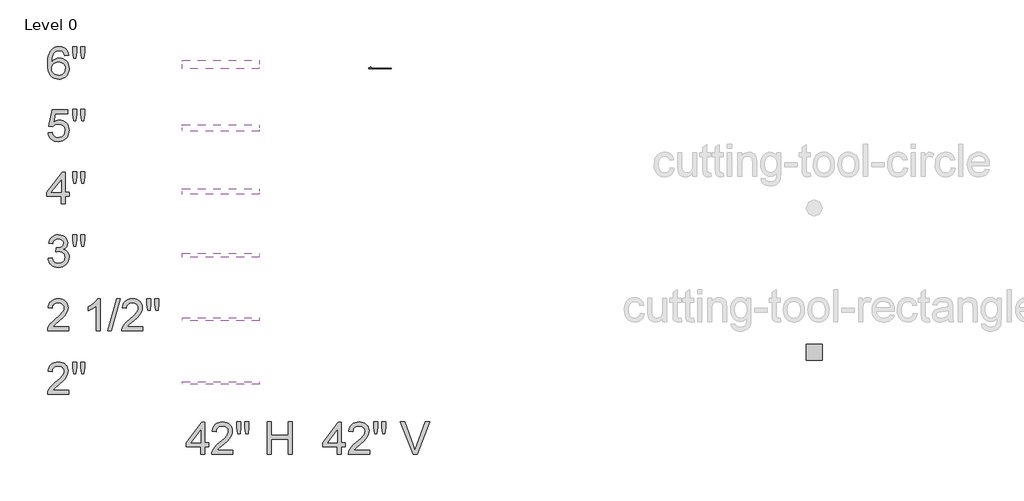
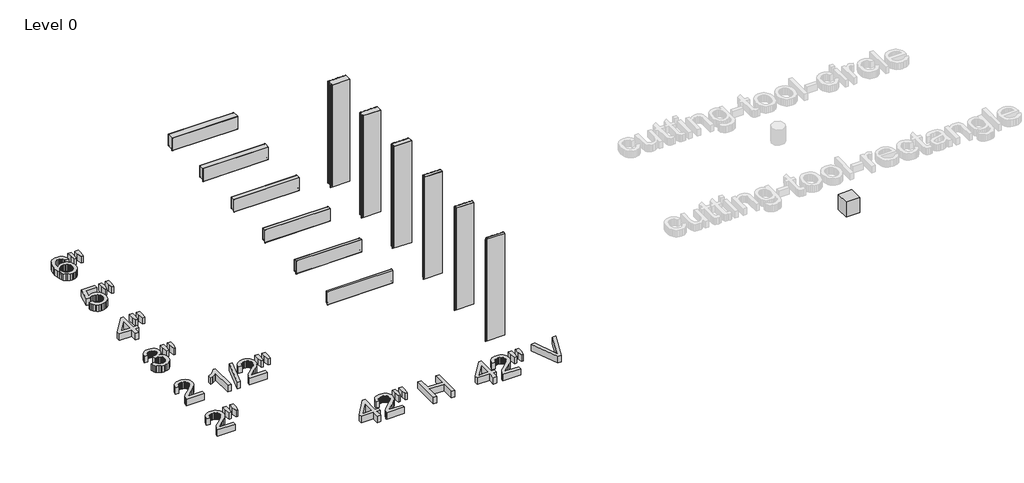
# One storey, part 1 of 3: 12 plates, 9 proxies.
"""IFC4 building model written with IfcOpenShell, lengths in millimetres."""

from ifc_helpers import new_model, si_unit, origin, origin_with_axes, place, context, project, spatial, polyline, outline, extrude, transform, mapped, element, save
from components import kingspan_ks_cutting_tool_rectangle_cutting_tool_rectangle_f435e5aa, plate_f772c91a, plate_86c60f66, plate_f3079791, plate_fa2d5985, plate_81779ee4, plate_a466234f, plate_e7e5032e, plate_ba7cd849, plate_3ed67b4f, plate_2c1e21dd, plate_d46dd3be, plate_fd4a2de5

model = new_model("IFC4")

# Units and contexts
model_context = context("Model", 3, world=origin())
ifc_project = project(units=[si_unit("LENGTHUNIT", "METRE", prefix="MILLI")], contexts=[model_context])

# Site, building, storey
site = spatial("IfcSite", under=ifc_project)
building = spatial("IfcBuilding", under=site)
storey = spatial("IfcBuildingStorey", under=building, Name="Level 0", Elevation=0.0)

# Proxies
placement = place(None, origin())
element("IfcBuildingElementProxy", 1, Name="24\" Arial", ObjectType="24\" Arial", at=placement, inside=storey, context=model_context, shape_type="SweptSolid", body=[
    extrude(outline(polyline([(-8830.6863907, 6438.6033745), (-8830.6863907, 6581.3691999), (-9106.7003197, 6581.3691999), (-9106.7003197, 6657.5109734), (-8811.6509473, 7038.219841), (-8754.5446171, 7038.219841), (-8754.5446171, 6657.5109734), (-8678.4028436, 6657.5109734), (-8678.4028436, 6581.3691999), (-8754.5446171, 6581.3691999), (-8754.5446171, 6438.6033745), (-8830.6863907, 6438.6033745)]), holes=[polyline([(-8830.6863907, 6657.5109734), (-8830.6863907, 6892.7771564), (-9013.0102468, 6657.5109734), (-8830.6863907, 6657.5109734)])]), origin_with_axes(), (0.0, 0.0, 1.0), 152.4),
    extrude(outline(polyline([(-8221.5522025, 6514.7451481), (-8221.5522025, 6438.6033745), (-8621.2965135, 6438.6033745), (-8619.6234765, 6465.4091454), (-8613.1172214, 6491.0995582), (-8594.3420282, 6532.1261437), (-8566.8670426, 6571.9258354), (-8527.1231188, 6613.5844571), (-8471.5411113, 6660.1878326), (-8389.3764045, 6733.1694251), (-8340.0775804, 6787.041217), (-8325.6987567, 6809.0509484), (-8315.4281684, 6830.763251), (-8309.2658154, 6852.1781248), (-8307.2116977, 6873.2955698), (-8309.1496323, 6893.1628844), (-8314.9634359, 6911.4222245), (-8324.6531086, 6928.0735901), (-8338.2186504, 6943.1169813), (-8354.9071946, 6955.5764597), (-8373.9658747, 6964.4760872), (-8395.3946904, 6969.8158637), (-8419.193642, 6971.5957892), (-8444.2659606, 6969.8576896), (-8466.6893039, 6964.6433909), (-8486.463672, 6955.9528931), (-8503.5890648, 6943.7861961), (-8517.4427407, 6928.5522646), (-8527.4019583, 6910.6600632), (-8533.4667175, 6890.1095918), (-8535.6370183, 6866.9008506), (-8611.7787918, 6876.4185723), (-8605.2307108, 6915.7256475), (-8593.3196167, 6950.0693796), (-8576.0455095, 6979.4497685), (-8553.4083892, 7003.8668143), (-8525.9287563, 7023.0602667), (-8494.127111, 7036.7698756), (-8458.0034534, 7044.9956409), (-8417.5577836, 7047.7375627), (-8376.7496224, 7044.6889174), (-8340.4307771, 7035.5429818), (-8308.6012479, 7020.2997556), (-8281.2610347, 6998.959239), (-8259.3024238, 6973.1015225), (-8243.6177018, 6944.3066965), (-8234.2068686, 6912.5747611), (-8231.0699242, 6877.9057163), (-8234.4531768, 6841.4892772), (-8244.6029347, 6805.7048744), (-8262.6159666, 6769.3070247), (-8289.5890412, 6731.0502449), (-8332.5860925, 6685.3763344), (-8398.6710546, 6626.7270923), (-8486.263837, 6553.4852496), (-8520.6168637, 6514.7451481), (-8221.5522025, 6514.7451481)])), origin_with_axes(), (0.0, 0.0, 1.0), 152.4),
    extrude(outline(polyline([(-8126.8211288, 6828.8299638), (-8145.410429, 6946.4630553), (-8145.410429, 7047.7375627), (-8069.2686555, 7047.7375627), (-8069.2686555, 6946.4630553), (-8085.9246684, 6828.8299638), (-8126.8211288, 6828.8299638)])), origin_with_axes(), (0.0, 0.0, 1.0), 152.4),
    extrude(outline(polyline([(-7974.983725, 6828.8299638), (-7993.126882, 6946.4630553), (-7993.126882, 7047.7375627), (-7916.9851084, 7047.7375627), (-7916.9851084, 6946.4630553), (-7934.8308366, 6828.8299638), (-7974.983725, 6828.8299638)])), origin_with_axes(), (0.0, 0.0, 1.0), 152.4),
    extrude(outline(polyline([(-7574.3471276, 6438.6033745), (-7574.3471276, 7047.7375627), (-7498.2053541, 7047.7375627), (-7498.2053541, 6800.2767987), (-7174.6028167, 6800.2767987), (-7174.6028167, 7047.7375627), (-7098.4610431, 7047.7375627), (-7098.4610431, 6438.6033745), (-7174.6028167, 6438.6033745), (-7174.6028167, 6724.1350252), (-7498.2053541, 6724.1350252), (-7498.2053541, 6438.6033745), (-7574.3471276, 6438.6033745)])), origin_with_axes(), (0.0, 0.0, 1.0), 152.4),
])
element("IfcBuildingElementProxy", 2, Name="24\" Arial", ObjectType="24\" Arial", at=placement, inside=storey, context=model_context, shape_type="SweptSolid", body=[
    extrude(outline(polyline([(-6239.8863907, 6438.6033745), (-6239.8863907, 6581.3691999), (-6515.9003197, 6581.3691999), (-6515.9003197, 6657.5109734), (-6220.8509473, 7038.219841), (-6163.7446171, 7038.219841), (-6163.7446171, 6657.5109734), (-6087.6028436, 6657.5109734), (-6087.6028436, 6581.3691999), (-6163.7446171, 6581.3691999), (-6163.7446171, 6438.6033745), (-6239.8863907, 6438.6033745)]), holes=[polyline([(-6239.8863907, 6657.5109734), (-6239.8863907, 6892.7771564), (-6422.2102468, 6657.5109734), (-6239.8863907, 6657.5109734)])]), origin_with_axes(), (0.0, 0.0, 1.0), 152.4),
    extrude(outline(polyline([(-5630.7522025, 6514.7451481), (-5630.7522025, 6438.6033745), (-6030.4965135, 6438.6033745), (-6028.8234765, 6465.4091454), (-6022.3172214, 6491.0995582), (-6003.5420282, 6532.1261437), (-5976.0670426, 6571.9258354), (-5936.3231188, 6613.5844571), (-5880.7411113, 6660.1878326), (-5798.5764045, 6733.1694251), (-5749.2775804, 6787.041217), (-5734.8987567, 6809.0509484), (-5724.6281684, 6830.763251), (-5718.4658154, 6852.1781248), (-5716.4116977, 6873.2955698), (-5718.3496323, 6893.1628844), (-5724.1634359, 6911.4222245), (-5733.8531086, 6928.0735901), (-5747.4186504, 6943.1169813), (-5764.1071946, 6955.5764597), (-5783.1658747, 6964.4760872), (-5804.5946904, 6969.8158637), (-5828.393642, 6971.5957892), (-5853.4659606, 6969.8576896), (-5875.8893039, 6964.6433909), (-5895.663672, 6955.9528931), (-5912.7890648, 6943.7861961), (-5926.6427407, 6928.5522646), (-5936.6019583, 6910.6600632), (-5942.6667175, 6890.1095918), (-5944.8370183, 6866.9008506), (-6020.9787918, 6876.4185723), (-6014.4307108, 6915.7256475), (-6002.5196167, 6950.0693796), (-5985.2455095, 6979.4497685), (-5962.6083892, 7003.8668143), (-5935.1287563, 7023.0602667), (-5903.327111, 7036.7698756), (-5867.2034534, 7044.9956409), (-5826.7577836, 7047.7375627), (-5785.9496224, 7044.6889174), (-5749.6307771, 7035.5429818), (-5717.8012479, 7020.2997556), (-5690.4610347, 6998.959239), (-5668.5024238, 6973.1015225), (-5652.8177018, 6944.3066965), (-5643.4068686, 6912.5747611), (-5640.2699242, 6877.9057163), (-5643.6531768, 6841.4892772), (-5653.8029347, 6805.7048744), (-5671.8159666, 6769.3070247), (-5698.7890412, 6731.0502449), (-5741.7860925, 6685.3763344), (-5807.8710546, 6626.7270923), (-5895.463837, 6553.4852496), (-5929.8168637, 6514.7451481), (-5630.7522025, 6514.7451481)])), origin_with_axes(), (0.0, 0.0, 1.0), 152.4),
    extrude(outline(polyline([(-5536.0211288, 6828.8299638), (-5554.610429, 6946.4630553), (-5554.610429, 7047.7375627), (-5478.4686555, 7047.7375627), (-5478.4686555, 6946.4630553), (-5495.1246684, 6828.8299638), (-5536.0211288, 6828.8299638)])), origin_with_axes(), (0.0, 0.0, 1.0), 152.4),
    extrude(outline(polyline([(-5384.183725, 6828.8299638), (-5402.326882, 6946.4630553), (-5402.326882, 7047.7375627), (-5326.1851084, 7047.7375627), (-5326.1851084, 6946.4630553), (-5344.0308366, 6828.8299638), (-5384.183725, 6828.8299638)])), origin_with_axes(), (0.0, 0.0, 1.0), 152.4),
    extrude(outline(polyline([(-4803.6027019, 6438.6033745), (-5046.0071762, 7047.7375627), (-4964.5116842, 7047.7375627), (-4802.2642723, 6608.8813641), (-4769.3983896, 6509.9862872), (-4736.9786501, 6608.8813641), (-4574.285095, 7047.7375627), (-4492.789603, 7047.7375627), (-4724.9327836, 6438.6033745), (-4803.6027019, 6438.6033745)])), origin_with_axes(), (0.0, 0.0, 1.0), 152.4),
])
element("IfcBuildingElementProxy", 3, Name="24\" Arial", ObjectType="24\" Arial", at=placement, inside=storey, context=model_context, shape_type="SweptSolid", body=[
    extrude(outline(polyline([(-11728.2912313, 10150.3406282), (-11652.1494578, 10159.8583499), (-11635.1030695, 10112.0094913), (-11623.6102347, 10093.9128075), (-11610.1376394, 10079.7012876), (-11594.3785602, 10068.9659667), (-11576.0262736, 10061.2978804), (-11555.0807796, 10056.6970286), (-11531.5420783, 10055.1634113), (-11503.9555568, 10057.2732969), (-11479.3433234, 10063.6029536), (-11457.705378, 10074.1523815), (-11439.0417206, 10088.9215804), (-11424.0122714, 10106.8044872), (-11413.2769505, 10126.6950384), (-11406.835758, 10148.593234), (-11404.6886939, 10172.499074), (-11406.8171687, 10195.2663194), (-11413.2025933, 10215.9794471), (-11423.8449677, 10234.6384572), (-11438.7442918, 10251.2433496), (-11456.9246274, 10264.8739539), (-11477.4100361, 10274.6100999), (-11500.2005182, 10280.4517875), (-11525.2960734, 10282.3990167), (-11549.3506278, 10280.317015), (-11578.6845435, 10274.0710102), (-11570.2078226, 10350.2127837), (-11558.0132417, 10349.3204973), (-11512.3950991, 10354.7857515), (-11471.6101745, 10371.1815143), (-11454.8240364, 10383.5805775), (-11442.8339378, 10398.9167502), (-11435.6398787, 10417.1900322), (-11433.2418589, 10438.4004237), (-11434.9799585, 10455.618763), (-11440.1942572, 10471.2848957), (-11448.884755, 10485.3988219), (-11461.051452, 10497.9605415), (-11475.9600707, 10508.2729558), (-11492.8763339, 10515.638966), (-11511.8002415, 10520.0585721), (-11532.7317935, 10521.5317741), (-11553.6075776, 10520.0446301), (-11572.6616102, 10515.5831981), (-11589.8938915, 10508.147478), (-11605.3044213, 10497.7374699), (-11618.5121191, 10484.3531738), (-11629.1359042, 10467.9945896), (-11637.1757765, 10448.6617174), (-11642.6317361, 10426.3545572), (-11718.7735096, 10435.8722789), (-11709.7484044, 10472.2236554), (-11696.3548136, 10504.243725), (-11678.5927373, 10531.9324876), (-11656.4621754, 10555.2899432), (-11630.6602268, 10573.8327702), (-11601.8839901, 10587.0776465), (-11570.1334654, 10595.0245724), (-11535.4086527, 10597.6735476), (-11487.5412047, 10592.4499543), (-11443.5775098, 10576.7791742), (-11406.5104453, 10552.055405), (-11379.3328884, 10519.6728441), (-11362.6582862, 10482.3641186), (-11357.1000854, 10442.8618558), (-11362.3794467, 10406.0550414), (-11378.2175304, 10372.6686583), (-11404.3912651, 10344.227029), (-11440.677579, 10322.2544762), (-11415.3031843, 10314.3168451), (-11393.0146134, 10302.9959613), (-11373.8118663, 10288.2918248), (-11357.694943, 10270.2044358), (-11344.9426831, 10249.1799373), (-11335.833926, 10225.6644725), (-11330.3686718, 10199.6580416), (-11328.5469203, 10171.1606444), (-11332.1904232, 10132.5320787), (-11343.1209317, 10096.9521581), (-11361.3384459, 10064.4208828), (-11386.8429657, 10034.9382527), (-11417.9149809, 10010.4747337), (-11452.8349813, 9993.0007915), (-11491.6029668, 9982.5164262), (-11534.2189375, 9979.0216378), (-11572.7359674, 9982.0052205), (-11607.8325662, 9990.9559685), (-11639.5087337, 10005.8738819), (-11667.7644699, 10026.7589607), (-11691.456533, 10052.3843109), (-11709.4416809, 10081.523039), (-11721.7199137, 10114.1751447), (-11728.2912313, 10150.3406282)])), origin_with_axes(), (0.0, 0.0, 1.0), 152.4),
    extrude(outline(polyline([(-11243.3335683, 10378.7659488), (-11261.9228685, 10496.3990403), (-11261.9228685, 10597.6735476), (-11185.781095, 10597.6735476), (-11185.781095, 10496.3990403), (-11202.437108, 10378.7659488), (-11243.3335683, 10378.7659488)])), origin_with_axes(), (0.0, 0.0, 1.0), 152.4),
    extrude(outline(polyline([(-11091.4961645, 10378.7659488), (-11109.6393215, 10496.3990403), (-11109.6393215, 10597.6735476), (-11033.497548, 10597.6735476), (-11033.497548, 10496.3990403), (-11051.3432761, 10378.7659488), (-11091.4961645, 10378.7659488)])), origin_with_axes(), (0.0, 0.0, 1.0), 152.4),
])
element("IfcBuildingElementProxy", 4, Name="24\" Arial", ObjectType="24\" Arial", at=placement, inside=storey, context=model_context, shape_type="SweptSolid", body=[
    extrude(outline(polyline([(-11480.8304674, 11183.3393595), (-11480.8304674, 11326.1051848), (-11756.8443964, 11326.1051848), (-11756.8443964, 11402.2469584), (-11461.795024, 11782.9558259), (-11404.6886939, 11782.9558259), (-11404.6886939, 11402.2469584), (-11328.5469203, 11402.2469584), (-11328.5469203, 11326.1051848), (-11404.6886939, 11326.1051848), (-11404.6886939, 11183.3393595), (-11480.8304674, 11183.3393595)]), holes=[polyline([(-11480.8304674, 11402.2469584), (-11480.8304674, 11637.5131414), (-11663.1543235, 11402.2469584), (-11480.8304674, 11402.2469584)])]), origin_with_axes(), (0.0, 0.0, 1.0), 152.4),
    extrude(outline(polyline([(-11243.3335683, 11573.5659488), (-11261.9228685, 11691.1990403), (-11261.9228685, 11792.4735476), (-11185.781095, 11792.4735476), (-11185.781095, 11691.1990403), (-11202.437108, 11573.5659488), (-11243.3335683, 11573.5659488)])), origin_with_axes(), (0.0, 0.0, 1.0), 152.4),
    extrude(outline(polyline([(-11091.4961645, 11573.5659488), (-11109.6393215, 11691.1990403), (-11109.6393215, 11792.4735476), (-11033.497548, 11792.4735476), (-11033.497548, 11691.1990403), (-11051.3432761, 11573.5659488), (-11091.4961645, 11573.5659488)])), origin_with_axes(), (0.0, 0.0, 1.0), 152.4),
])
element("IfcBuildingElementProxy", 5, Name="24\" Arial", ObjectType="24\" Arial", at=placement, inside=storey, context=model_context, shape_type="SweptSolid", body=[
    extrude(outline(polyline([(-11728.2912313, 12536.5390547), (-11652.1494578, 12546.0567763), (-11646.4611319, 12521.5793153), (-11638.1703041, 12500.3456872), (-11627.2769742, 12482.355892), (-11613.7811422, 12467.6099296), (-11597.7106922, 12456.1263894), (-11579.0935081, 12447.9238607), (-11557.9295899, 12443.0023435), (-11534.2189375, 12441.3618378), (-11505.2196292, 12443.6436744), (-11479.6407522, 12450.4891841), (-11457.4823064, 12461.8983671), (-11438.7442918, 12477.8712233), (-11423.8449677, 12497.6177074), (-11413.2025933, 12520.3477742), (-11406.8171687, 12546.0614237), (-11404.6886939, 12574.7586558), (-11406.6823963, 12601.8804448), (-11412.6635036, 12625.9907671), (-11422.6320159, 12647.0896228), (-11436.587933, 12665.1770119), (-11454.5777282, 12679.6859607), (-11476.6478748, 12690.0494955), (-11502.7983729, 12696.2676164), (-11533.0292223, 12698.3403234), (-11569.9661617, 12695.0314279), (-11599.8763457, 12685.1047417), (-11623.7635964, 12669.8986941), (-11642.6317361, 12650.7517149), (-11718.7735096, 12660.2694366), (-11652.1494578, 12974.3542524), (-11357.1000854, 12974.3542524), (-11357.1000854, 12898.2124789), (-11590.5816956, 12898.2124789), (-11623.1501495, 12730.4626341), (-11596.2793161, 12749.7211491), (-11568.7578572, 12763.4772312), (-11540.5857728, 12771.7308805), (-11511.7630629, 12774.4820969), (-11474.6820563, 12771.0709603), (-11440.6218111, 12760.8375506), (-11409.5823271, 12743.7818677), (-11381.5636044, 12719.9039116), (-11358.3688051, 12690.6629424), (-11341.8010914, 12657.5182202), (-11331.8604631, 12620.4697449), (-11328.5469203, 12579.5175167), (-11331.530503, 12540.0710217), (-11340.4812511, 12503.3757431), (-11355.3991644, 12469.431681), (-11376.2842432, 12438.2388353), (-11407.9232321, 12406.293123), (-11444.8415822, 12383.474757), (-11487.0392936, 12369.7837374), (-11534.5163663, 12365.2200642), (-11573.8094995, 12368.1525263), (-11609.3011209, 12376.9499127), (-11640.9912304, 12391.6122232), (-11668.8798279, 12412.1394579), (-11692.0839219, 12437.5092053), (-11709.7205204, 12466.6990539), (-11721.7896236, 12499.7090037), (-11728.2912313, 12536.5390547)])), origin_with_axes(), (0.0, 0.0, 1.0), 152.4),
    extrude(outline(polyline([(-11243.3335683, 12764.9643752), (-11261.9228685, 12882.5974667), (-11261.9228685, 12983.8719741), (-11185.781095, 12983.8719741), (-11185.781095, 12882.5974667), (-11202.437108, 12764.9643752), (-11243.3335683, 12764.9643752)])), origin_with_axes(), (0.0, 0.0, 1.0), 152.4),
    extrude(outline(polyline([(-11091.4961645, 12764.9643752), (-11109.6393215, 12882.5974667), (-11109.6393215, 12983.8719741), (-11033.497548, 12983.8719741), (-11033.497548, 12882.5974667), (-11051.3432761, 12764.9643752), (-11091.4961645, 12764.9643752)])), origin_with_axes(), (0.0, 0.0, 1.0), 152.4),
])
element("IfcBuildingElementProxy", 6, Name="24\" Arial", ObjectType="24\" Arial", at=placement, inside=storey, context=model_context, shape_type="SweptSolid", body=[
    extrude(outline(polyline([(-11338.064642, 8852.7818418), (-11338.064642, 8776.6400683), (-11737.808953, 8776.6400683), (-11736.135916, 8803.4458392), (-11729.6296609, 8829.136252), (-11710.8544677, 8870.1628375), (-11683.3794821, 8909.9625292), (-11643.6355583, 8951.6211509), (-11588.0535508, 8998.2245264), (-11505.888844, 9071.2061189), (-11456.5900199, 9125.0779108), (-11442.2111963, 9147.0876422), (-11431.9406079, 9168.7999448), (-11425.7782549, 9190.2148186), (-11423.7241372, 9211.3322636), (-11425.6620718, 9231.1995782), (-11431.4758754, 9249.4589183), (-11441.1655481, 9266.1102839), (-11454.7310899, 9281.1536751), (-11471.4196342, 9293.6131535), (-11490.4783142, 9302.512781), (-11511.9071299, 9307.8525574), (-11535.7060815, 9309.6324829), (-11560.7784001, 9307.8943834), (-11583.2017434, 9302.6800847), (-11602.9761115, 9293.9895868), (-11620.1015043, 9281.8228899), (-11633.9551802, 9266.5889584), (-11643.9143978, 9248.696757), (-11649.979157, 9228.1462856), (-11652.1494578, 9204.9375443), (-11728.2912313, 9214.455266), (-11721.7431503, 9253.7623413), (-11709.8320562, 9288.1060733), (-11692.557949, 9317.4864623), (-11669.9208288, 9341.903508), (-11642.4411958, 9361.0969605), (-11610.6395505, 9374.8065693), (-11574.5158929, 9383.0323347), (-11534.0702231, 9385.7742565), (-11493.2620619, 9382.7256112), (-11456.9432167, 9373.5796755), (-11425.1136874, 9358.3364494), (-11397.7734742, 9336.9959328), (-11375.8148634, 9311.1382162), (-11360.1301413, 9282.3433903), (-11350.7193081, 9250.6114549), (-11347.5823637, 9215.9424101), (-11350.9656164, 9179.525971), (-11361.1153742, 9143.7415682), (-11379.1284061, 9107.3437184), (-11406.1014807, 9069.0869387), (-11449.098532, 9023.4130281), (-11515.1834941, 8964.7637861), (-11602.7762765, 8891.5219434), (-11637.1293032, 8852.7818418), (-11338.064642, 8852.7818418)])), origin_with_axes(), (0.0, 0.0, 1.0), 152.4),
    extrude(outline(polyline([(-10738.4481756, 8776.6400683), (-10814.5899491, 8776.6400683), (-10814.5899491, 9251.3364376), (-10846.3776524, 9225.6274354), (-10886.7164338, 9199.9556119), (-10929.0628596, 9177.5183266), (-10966.8734961, 9161.5129391), (-10966.8734961, 9233.4907094), (-10907.0717175, 9266.0219847), (-10855.2633379, 9304.7249077), (-10814.4226454, 9345.8816183), (-10787.523928, 9385.7742565), (-10738.4481756, 9385.7742565), (-10738.4481756, 8776.6400683)])), origin_with_axes(), (0.0, 0.0, 1.0), 152.4),
    extrude(outline(polyline([(-10595.6823502, 8776.6400683), (-10424.3633598, 9385.7742565), (-10355.6573064, 9385.7742565), (-10526.9762968, 8776.6400683), (-10595.6823502, 8776.6400683)])), origin_with_axes(), (0.0, 0.0, 1.0), 152.4),
    extrude(outline(polyline([(-9929.441832, 8852.7818418), (-9929.441832, 8776.6400683), (-10329.1861429, 8776.6400683), (-10327.5131059, 8803.4458392), (-10321.0068509, 8829.136252), (-10302.2316577, 8870.1628375), (-10274.756672, 8909.9625292), (-10235.0127482, 8951.6211509), (-10179.4307407, 8998.2245264), (-10097.2660339, 9071.2061189), (-10047.9672099, 9125.0779108), (-10033.5883862, 9147.0876422), (-10023.3177979, 9168.7999448), (-10017.1554448, 9190.2148186), (-10015.1013272, 9211.3322636), (-10017.0392617, 9231.1995782), (-10022.8530653, 9249.4589183), (-10032.5427381, 9266.1102839), (-10046.1082799, 9281.1536751), (-10062.7968241, 9293.6131535), (-10081.8555041, 9302.512781), (-10103.2843199, 9307.8525574), (-10127.0832714, 9309.6324829), (-10152.15559, 9307.8943834), (-10174.5789334, 9302.6800847), (-10194.3533014, 9293.9895868), (-10211.4786942, 9281.8228899), (-10225.3323702, 9266.5889584), (-10235.2915877, 9248.696757), (-10241.3563469, 9228.1462856), (-10243.5266477, 9204.9375443), (-10319.6684212, 9214.455266), (-10313.1203403, 9253.7623413), (-10301.2092462, 9288.1060733), (-10283.935139, 9317.4864623), (-10261.2980187, 9341.903508), (-10233.8183857, 9361.0969605), (-10202.0167404, 9374.8065693), (-10165.8930829, 9383.0323347), (-10125.447413, 9385.7742565), (-10084.6392518, 9382.7256112), (-10048.3204066, 9373.5796755), (-10016.4908774, 9358.3364494), (-9989.1506641, 9336.9959328), (-9967.1920533, 9311.1382162), (-9951.5073313, 9282.3433903), (-9942.0964981, 9250.6114549), (-9938.9595537, 9215.9424101), (-9942.3428063, 9179.525971), (-9952.4925642, 9143.7415682), (-9970.5055961, 9107.3437184), (-9997.4786706, 9069.0869387), (-10040.4757219, 9023.4130281), (-10106.560684, 8964.7637861), (-10194.1534665, 8891.5219434), (-10228.5064932, 8852.7818418), (-9929.441832, 8852.7818418)])), origin_with_axes(), (0.0, 0.0, 1.0), 152.4),
    extrude(outline(polyline([(-9834.7107583, 9166.8666576), (-9853.3000584, 9284.4997491), (-9853.3000584, 9385.7742565), (-9777.1582849, 9385.7742565), (-9777.1582849, 9284.4997491), (-9793.8142979, 9166.8666576), (-9834.7107583, 9166.8666576)])), origin_with_axes(), (0.0, 0.0, 1.0), 152.4),
    extrude(outline(polyline([(-9682.8733544, 9166.8666576), (-9701.0165114, 9284.4997491), (-9701.0165114, 9385.7742565), (-9624.8747379, 9385.7742565), (-9624.8747379, 9284.4997491), (-9642.7204661, 9166.8666576), (-9682.8733544, 9166.8666576)])), origin_with_axes(), (0.0, 0.0, 1.0), 152.4),
])
element("IfcBuildingElementProxy", 7, Name="24\" Arial", ObjectType="24\" Arial", at=placement, inside=storey, context=model_context, shape_type="SweptSolid", body=[
    extrude(outline(polyline([(-11338.064642, 7651.681133), (-11338.064642, 7575.5393595), (-11737.808953, 7575.5393595), (-11736.135916, 7602.3451304), (-11729.6296609, 7628.0355432), (-11710.8544677, 7669.0621287), (-11683.3794821, 7708.8618204), (-11643.6355583, 7750.520442), (-11588.0535508, 7797.1238176), (-11505.888844, 7870.1054101), (-11456.5900199, 7923.977202), (-11442.2111963, 7945.9869334), (-11431.9406079, 7967.699236), (-11425.7782549, 7989.1141098), (-11423.7241372, 8010.2315548), (-11425.6620718, 8030.0988694), (-11431.4758754, 8048.3582095), (-11441.1655481, 8065.0095751), (-11454.7310899, 8080.0529662), (-11471.4196342, 8092.5124447), (-11490.4783142, 8101.4120722), (-11511.9071299, 8106.7518486), (-11535.7060815, 8108.5317741), (-11560.7784001, 8106.7936746), (-11583.2017434, 8101.5793759), (-11602.9761115, 8092.888878), (-11620.1015043, 8080.7221811), (-11633.9551802, 8065.4882496), (-11643.9143978, 8047.5960481), (-11649.979157, 8027.0455768), (-11652.1494578, 8003.8368355), (-11728.2912313, 8013.3545572), (-11721.7431503, 8052.6616324), (-11709.8320562, 8087.0053645), (-11692.557949, 8116.3857534), (-11669.9208288, 8140.8027992), (-11642.4411958, 8159.9962517), (-11610.6395505, 8173.7058605), (-11574.5158929, 8181.9316259), (-11534.0702231, 8184.6735476), (-11493.2620619, 8181.6249024), (-11456.9432167, 8172.4789667), (-11425.1136874, 8157.2357406), (-11397.7734742, 8135.895224), (-11375.8148634, 8110.0375074), (-11360.1301413, 8081.2426815), (-11350.7193081, 8049.5107461), (-11347.5823637, 8014.8417012), (-11350.9656164, 7978.4252622), (-11361.1153742, 7942.6408594), (-11379.1284061, 7906.2430096), (-11406.1014807, 7867.9862299), (-11449.098532, 7822.3123193), (-11515.1834941, 7763.6630773), (-11602.7762765, 7690.4212346), (-11637.1293032, 7651.681133), (-11338.064642, 7651.681133)])), origin_with_axes(), (0.0, 0.0, 1.0), 152.4),
    extrude(outline(polyline([(-11243.3335683, 7965.7659488), (-11261.9228685, 8083.3990403), (-11261.9228685, 8184.6735476), (-11185.781095, 8184.6735476), (-11185.781095, 8083.3990403), (-11202.437108, 7965.7659488), (-11243.3335683, 7965.7659488)])), origin_with_axes(), (0.0, 0.0, 1.0), 152.4),
    extrude(outline(polyline([(-11091.4961645, 7965.7659488), (-11109.6393215, 8083.3990403), (-11109.6393215, 8184.6735476), (-11033.497548, 8184.6735476), (-11033.497548, 8083.3990403), (-11051.3432761, 7965.7659488), (-11091.4961645, 7965.7659488)])), origin_with_axes(), (0.0, 0.0, 1.0), 152.4),
])
element("IfcBuildingElementProxy", 8, Name="24\" Arial", ObjectType="24\" Arial", at=placement, inside=storey, context=model_context, shape_type="SweptSolid", body=[
    extrude(outline(polyline([(-11338.064642, 14006.984797), (-11414.2064155, 13997.4670753), (-11426.4753537, 14035.2033547), (-11443.0570094, 14060.9681247), (-11459.4248882, 14074.826448), (-11477.5959291, 14084.7252504), (-11497.5701322, 14090.6645318), (-11519.3474973, 14092.6442922), (-11554.7415249, 14088.0341458), (-11588.0535508, 14074.2037065), (-11616.6624838, 14045.0742731), (-11640.0292341, 14004.9771526), (-11649.1612278, 13979.4029229), (-11655.8115499, 13948.2611978), (-11661.6671795, 13869.2752613), (-11631.1249593, 13904.9109498), (-11594.5226272, 13930.0250943), (-11553.9050064, 13944.9151237), (-11511.3169197, 13949.8784669), (-11474.7331769, 13946.4859196), (-11440.9750078, 13936.3082778), (-11410.0424123, 13919.3455414), (-11381.9353904, 13895.5977104), (-11358.5779348, 13866.4775717), (-11341.8940379, 13833.397912), (-11331.8836997, 13796.3587314), (-11328.5469203, 13755.3600299), (-11330.1177162, 13727.6015574), (-11334.8301038, 13700.8376124), (-11342.6840831, 13675.0681951), (-11353.6796542, 13650.2933053), (-11367.4264417, 13627.4377607), (-11383.5340703, 13607.4263791), (-11402.00254, 13590.2591604), (-11422.8318508, 13575.9361046), (-11445.5758596, 13564.647752), (-11469.7884231, 13556.5846431), (-11495.4695413, 13551.7467777), (-11522.6192142, 13550.1341559), (-11568.0096379, 13554.409695), (-11609.0036921, 13567.2363121), (-11645.6013768, 13588.6140073), (-11677.802692, 13618.5427806), (-11704.0554312, 13658.2867043), (-11722.8073878, 13709.109851), (-11734.0585617, 13771.0122206), (-11737.808953, 13843.9938131), (-11733.6449498, 13925.8146178), (-11721.15294, 13995.6453239), (-11700.3329238, 14053.4859314), (-11686.7999133, 14077.9099482), (-11671.1849012, 14099.3364403), (-11639.5923855, 14129.7206514), (-11602.9621695, 14151.4236594), (-11561.2942532, 14164.4454642), (-11514.5886365, 14168.7860658), (-11479.5199217, 14166.0999119), (-11447.7786917, 14158.0414503), (-11419.3649463, 14144.6106809), (-11394.2786858, 14125.8076037), (-11373.1984194, 14102.2642551), (-11356.8026566, 14074.6126711), (-11345.0913975, 14042.8528517), (-11338.064642, 14006.984797)]), holes=[polyline([(-11661.6671795, 13756.5497451), (-11657.2615153, 13722.8101653), (-11644.0445229, 13690.594908), (-11623.5219355, 13662.8968508), (-11597.1994865, 13642.7088708), (-11565.4303725, 13630.3841648), (-11528.5677902, 13626.2759294), (-11502.1012741, 13628.4044043), (-11478.3209119, 13634.7898289), (-11457.2267035, 13645.4322033), (-11438.818649, 13660.3315274), (-11423.8867936, 13678.8836489), (-11413.2211826, 13700.4844157), (-11406.8218161, 13725.1338278), (-11404.6886939, 13752.831885), (-11406.7939321, 13779.4471156), (-11413.1096468, 13803.0787634), (-11423.6358381, 13823.7268286), (-11438.3725058, 13841.3913111), (-11456.8363282, 13855.5424158), (-11478.5439835, 13865.6503478), (-11503.4954716, 13871.715107), (-11531.6907927, 13873.7366934), (-11557.8041121, 13871.715107), (-11581.8633138, 13865.6503478), (-11603.8683979, 13855.5424158), (-11623.8193643, 13841.3913111), (-11640.3777835, 13823.9591948), (-11652.2052257, 13804.0082284), (-11659.301691, 13781.5384118), (-11661.6671795, 13756.5497451)])]), origin_with_axes(), (0.0, 0.0, 1.0), 152.4),
    extrude(outline(polyline([(-11243.3335683, 13949.8784669), (-11261.9228685, 14067.5115584), (-11261.9228685, 14168.7860658), (-11185.781095, 14168.7860658), (-11185.781095, 14067.5115584), (-11202.437108, 13949.8784669), (-11243.3335683, 13949.8784669)])), origin_with_axes(), (0.0, 0.0, 1.0), 152.4),
    extrude(outline(polyline([(-11091.4961645, 13949.8784669), (-11109.6393215, 14067.5115584), (-11109.6393215, 14168.7860658), (-11033.497548, 14168.7860658), (-11033.497548, 14067.5115584), (-11051.3432761, 13949.8784669), (-11091.4961645, 13949.8784669)])), origin_with_axes(), (0.0, 0.0, 1.0), 152.4),
])
kingspan_ks_cutting_tool_rectangle_cutting_tool_rectangle_shape = kingspan_ks_cutting_tool_rectangle_cutting_tool_rectangle_f435e5aa(model_context)
element("IfcBuildingElementProxy", 9, Name="kingspan-ks-cutting-tool-rectangle : cutting-tool-rectangle", ObjectType="kingspan-ks-cutting-tool-rectangle : cutting-tool-rectangle", at=placement, inside=storey, context=model_context, shape_type="MappedRepresentation", body=[
    mapped(kingspan_ks_cutting_tool_rectangle_cutting_tool_rectangle_shape, transform((2804.6310113, 8370.6928401, 0.0), x_axis=(1.0, 0.0, 0.0), y_axis=(0.0, 1.0, 0.0), z_axis=(0.0, 0.0, 1.0))),
])

# Plates
plate_shape = plate_f772c91a(model_context)
element("IfcPlate", 10, ObjectType="KIP-42-S-O-KP-R19-CP-Hz-FL_SL : Hz 2\"", at=placement, inside=storey, context=model_context, shape_type="MappedRepresentation", body=[
    mapped(plate_shape, transform((-8448.7250935, 7809.8222907, 2133.6), x_axis=(1.0, 0.0, 0.0), y_axis=(0.0, 1.0, 0.0), z_axis=(0.0, 0.0, 1.0))),
])
plate_2_shape = plate_86c60f66(model_context)
element("IfcPlate", 11, ObjectType="KIP-42-S-O-KP-R19-CP-Hz-FL_SL : Hz 2.5\"", at=placement, inside=storey, context=model_context, shape_type="MappedRepresentation", body=[
    mapped(plate_2_shape, transform((-8448.7250935, 9029.0222907, 2133.6), x_axis=(1.0, 0.0, 0.0), y_axis=(0.0, 1.0, 0.0), z_axis=(0.0, 0.0, 1.0))),
])
plate_3_shape = plate_f3079791(model_context)
element("IfcPlate", 12, ObjectType="KIP-42-S-O-KP-R19-CP-Hz-FL_SL : Hz 3\"", at=placement, inside=storey, context=model_context, shape_type="MappedRepresentation", body=[
    mapped(plate_3_shape, transform((-8448.7250935, 10248.2222907, 2133.6), x_axis=(1.0, 0.0, 0.0), y_axis=(0.0, 1.0, 0.0), z_axis=(0.0, 0.0, 1.0))),
])
plate_4_shape = plate_fa2d5985(model_context)
element("IfcPlate", 13, ObjectType="KIP-42-S-O-KP-R19-CP-Hz-FL_SL : Hz 4\"", at=placement, inside=storey, context=model_context, shape_type="MappedRepresentation", body=[
    mapped(plate_4_shape, transform((-8448.7250935, 11467.4222907, 2133.6), x_axis=(1.0, 0.0, 0.0), y_axis=(0.0, 1.0, 0.0), z_axis=(0.0, 0.0, 1.0))),
])
plate_5_shape = plate_81779ee4(model_context)
element("IfcPlate", 14, ObjectType="KIP-42-S-O-KP-R19-CP-Hz-FL_SL : Hz 5\"", at=placement, inside=storey, context=model_context, shape_type="MappedRepresentation", body=[
    mapped(plate_5_shape, transform((-8448.7250935, 12686.6222907, 2133.6), x_axis=(1.0, 0.0, 0.0), y_axis=(0.0, 1.0, 0.0), z_axis=(0.0, 0.0, 1.0))),
])
plate_6_shape = plate_a466234f(model_context)
element("IfcPlate", 15, ObjectType="KIP-42-S-O-KP-R19-CP-Hz-FL_SL : Hz 6\"", at=placement, inside=storey, context=model_context, shape_type="MappedRepresentation", body=[
    mapped(plate_6_shape, transform((-8448.7250935, 13904.4207172, 2133.6), x_axis=(1.0, 0.0, 0.0), y_axis=(0.0, 1.0, 0.0), z_axis=(0.0, 0.0, 1.0))),
])
plate_7_shape = plate_e7e5032e(model_context)
element("IfcPlate", 16, ObjectType="KIP-42-S-O-KP-R19-CP-Vt-FL_SL : Vt 2\"", at=placement, inside=storey, context=model_context, shape_type="MappedRepresentation", body=[
    mapped(plate_7_shape, transform((-5415.5413834, 7808.4207172, 0.0), x_axis=(1.0, 0.0, 0.0), y_axis=(0.0, 1.0, 0.0), z_axis=(0.0, 0.0, 1.0))),
])
plate_8_shape = plate_ba7cd849(model_context)
element("IfcPlate", 17, ObjectType="KIP-42-S-O-KP-R19-CP-Vt-FL_SL : Vt 2.5\"", at=placement, inside=storey, context=model_context, shape_type="MappedRepresentation", body=[
    mapped(plate_8_shape, transform((-5415.5413834, 9027.6207172, 0.0), x_axis=(1.0, 0.0, 0.0), y_axis=(0.0, 1.0, 0.0), z_axis=(0.0, 0.0, 1.0))),
])
plate_9_shape = plate_3ed67b4f(model_context)
element("IfcPlate", 18, ObjectType="KIP-42-S-O-KP-R19-CP-Vt-FL_SL : Vt 3\"", at=placement, inside=storey, context=model_context, shape_type="MappedRepresentation", body=[
    mapped(plate_9_shape, transform((-5415.5413834, 10246.8207172, 0.0), x_axis=(1.0, 0.0, 0.0), y_axis=(0.0, 1.0, 0.0), z_axis=(0.0, 0.0, 1.0))),
])
plate_10_shape = plate_2c1e21dd(model_context)
element("IfcPlate", 19, ObjectType="KIP-42-S-O-KP-R19-CP-Vt-FL_SL : Vt 4\"", at=placement, inside=storey, context=model_context, shape_type="MappedRepresentation", body=[
    mapped(plate_10_shape, transform((-5415.5413834, 11466.0207172, 0.0), x_axis=(1.0, 0.0, 0.0), y_axis=(0.0, 1.0, 0.0), z_axis=(0.0, 0.0, 1.0))),
])
plate_11_shape = plate_d46dd3be(model_context)
element("IfcPlate", 20, ObjectType="KIP-42-S-O-KP-R19-CP-Vt-FL_SL : Vt 5\"", at=placement, inside=storey, context=model_context, shape_type="MappedRepresentation", body=[
    mapped(plate_11_shape, transform((-5415.5413834, 12685.2207172, 0.0), x_axis=(1.0, 0.0, 0.0), y_axis=(0.0, 1.0, 0.0), z_axis=(0.0, 0.0, 1.0))),
])
plate_12_shape = plate_fd4a2de5(model_context)
element("IfcPlate", 21, ObjectType="KIP-42-S-O-KP-R19-CP-Vt-FL_SL : Vt 6\"", at=placement, inside=storey, context=model_context, shape_type="MappedRepresentation", body=[
    mapped(plate_12_shape, transform((-5415.5413834, 13904.4207172, 0.0), x_axis=(1.0, 0.0, 0.0), y_axis=(0.0, 1.0, 0.0), z_axis=(0.0, 0.0, 1.0))),
])

save(model, "model.ifc")
